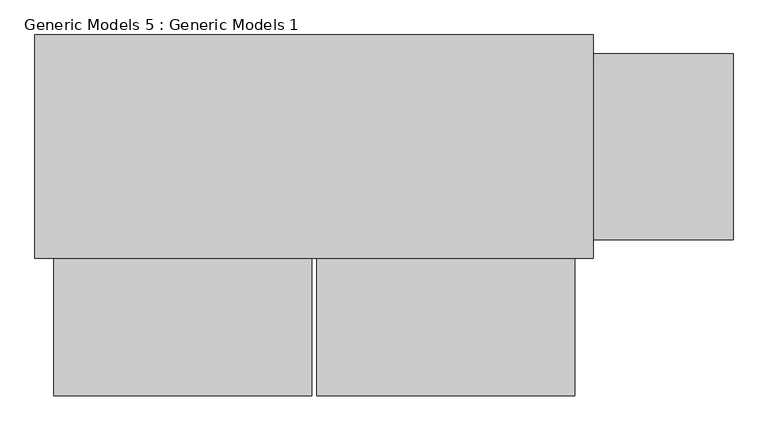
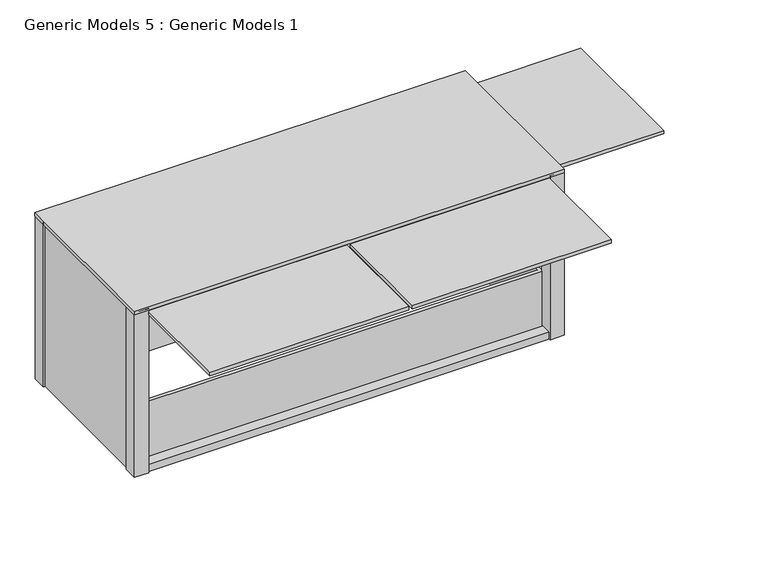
"""IFC4 building model written with IfcOpenShell, lengths in millimetres: proxy geometry, Generic Models 5 : Generic Models 1."""

from ifc_helpers import new_model, si_unit, frame, origin, place, context, project, spatial, polyline, outline, extrude, faceted_brep, source, transform, mapped, element, save


def generic_models_5_generic_models_1_d00e9448(model_context):
    return source(origin(), model_context, "Body", "SolidModel", [
        extrude(outline(polyline([(120332.4911269, 156436.3367469), (126428.4911269, 156436.3367469), (126428.4911269, 153997.9367469), (120332.4911269, 153997.9367469), (120332.4911269, 156436.3367469)])), frame((0.0, 0.0, 5968.9941705), z_axis=(0.0, 0.0, 1.0), x_axis=(1.0, 0.0, 0.0)), (0.0, 0.0, 1.0), 50.8),
        extrude(outline(polyline([(127952.4911269, 156230.5266749), (127952.4911269, 154198.5266749), (126403.0911269, 154198.5266749), (126403.0911269, 156230.5266749), (127952.4911269, 156230.5266749)])), frame((0.0, 0.0, 5892.7941705), z_axis=(0.0, 0.0, 1.0), x_axis=(1.0, 0.0, 0.0)), (0.0, 0.0, 1.0), 50.8),
        extrude(outline(polyline([(123405.8911269, 154020.7266749), (126225.2911269, 154020.7266749), (126225.2911269, 152496.7266749), (123405.8911269, 152496.7266749), (123405.8911269, 154020.7266749)])), frame((0.0, 0.0, 5892.7941705), z_axis=(0.0, 0.0, 1.0), x_axis=(1.0, 0.0, 0.0)), (0.0, 0.0, 1.0), 50.8),
        extrude(outline(polyline([(123355.0911269, 154020.7266749), (123355.0911269, 152496.7266749), (120535.6911269, 152496.7266749), (120535.6911269, 154020.7266749), (123355.0911269, 154020.7266749)])), frame((0.0, 0.0, 5892.7941705), z_axis=(0.0, 0.0, 1.0), x_axis=(1.0, 0.0, 0.0)), (0.0, 0.0, 1.0), 50.8),
        extrude(outline(polyline([(126233.4409488, 154198.5266749), (126233.4409488, 154192.1766749), (120510.2911269, 154192.1766749), (120510.2911269, 154242.9766749), (126182.6409488, 154242.9766749), (126182.6409488, 156230.5266749), (126233.4409488, 156230.5266749), (126233.4409488, 154198.5266749)])), frame((0.0, 0.0, 3530.5941705), z_axis=(0.0, 0.0, 1.0), x_axis=(1.0, 0.0, 0.0)), (0.0, 0.0, 1.0), 914.4),
        extrude(outline(polyline([(126225.2911269, 154020.7266749), (120535.6911269, 154020.7266749), (120535.6911269, 154173.1266749), (126225.2911269, 154173.1266749), (126225.2911269, 154020.7266749)])), frame((0.0, 0.0, 5867.3941705), z_axis=(0.0, 0.0, 1.0), x_axis=(1.0, 0.0, 0.0)), (0.0, 0.0, 1.0), 114.3),
        extrude(outline(polyline([(120357.8911269, 154198.5266749), (120357.8911269, 156230.5266749), (120510.2911269, 156230.5266749), (120510.2911269, 154198.5266749), (120357.8911269, 154198.5266749)])), frame((0.0, 0.0, 3530.5941705), z_axis=(0.0, 0.0, 1.0), x_axis=(1.0, 0.0, 0.0)), (0.0, 0.0, 1.0), 2451.1),
        extrude(outline(polyline([(126225.2911269, 156408.3266749), (126225.2911269, 156255.9266749), (120535.6911269, 156255.9266749), (120535.6911269, 156408.3266749), (126225.2911269, 156408.3266749)])), frame((0.0, 0.0, 3530.5941705), z_axis=(0.0, 0.0, 1.0), x_axis=(1.0, 0.0, 0.0)), (0.0, 0.0, 1.0), 2451.1),
        extrude(outline(polyline([(126250.6911269, 156230.5266749), (126403.0911269, 156230.5266749), (126403.0911269, 154198.5266749), (126250.6911269, 154198.5266749), (126250.6911269, 156230.5266749)])), frame((0.0, 0.0, 5867.3941705), z_axis=(0.0, 0.0, 1.0), x_axis=(1.0, 0.0, 0.0)), (0.0, 0.0, 1.0), 114.3),
        extrude(outline(polyline([(120535.6911269, 154020.7266749), (120535.6911269, 154173.1266749), (126225.2911269, 154173.1266749), (126225.2911269, 154020.7266749), (120535.6911269, 154020.7266749)])), frame((0.0, 0.0, 3530.5941705), z_axis=(0.0, 0.0, 1.0), x_axis=(1.0, 0.0, 0.0)), (0.0, 0.0, 1.0), 101.6),
        extrude(outline(polyline([(126403.0911269, 156230.5266749), (126403.0911269, 154198.5266749), (126250.6911269, 154198.5266749), (126250.6911269, 156230.5266749), (126403.0911269, 156230.5266749)])), frame((0.0, 0.0, 3530.5941705), z_axis=(0.0, 0.0, 1.0), x_axis=(1.0, 0.0, 0.0)), (0.0, 0.0, 1.0), 101.6),
        faceted_brep([(126225.2911269, 153997.9367469, 5994.3941705), (126428.4911269, 153997.9367469, 5994.3941705), (126428.4911269, 154198.5266749, 5994.3941705), (126225.2911269, 154198.5266749, 5994.3941705), (126225.2911269, 153997.9367469, 3530.5941705), (126225.2911269, 154198.5266749, 3530.5941705), (126428.4911269, 154198.5266749, 3530.5941705), (126428.4911269, 153997.9367469, 3530.5941705), (126225.2911269, 154198.5266749, 3632.1941705), (126225.2911269, 154198.5266749, 5867.3941705)], [[[0, 1, 2, 3]], [[4, 5, 6, 7]], [[1, 0, 4, 7]], [[2, 1, 7, 6]], [[3, 2, 6, 5, 8, 9]], [[0, 3, 9, 8, 5, 4]]]),
        faceted_brep([(120332.4911269, 153997.9367469, 5994.3941705), (120535.6911269, 153997.9367469, 5994.3941705), (120535.6911269, 154198.5266749, 5994.3941705), (120332.4911269, 154198.5266749, 5994.3941705), (120332.4911269, 153997.9367469, 3530.5941705), (120332.4911269, 154198.5266749, 3530.5941705), (120535.6911269, 154198.5266749, 3530.5941705), (120535.6911269, 153997.9367469, 3530.5941705)], [[[0, 1, 2, 3]], [[4, 5, 6, 7]], [[1, 0, 4, 7]], [[2, 1, 7, 6]], [[3, 2, 6, 5]], [[0, 3, 5, 4]]]),
        faceted_brep([(126225.2911269, 156230.5266749, 5994.3941705), (126428.4911269, 156230.5266749, 5994.3941705), (126428.4911269, 156433.7266749, 5994.3941705), (126225.2911269, 156433.7266749, 5994.3941705), (126225.2911269, 156230.5266749, 3530.5941705), (126225.2911269, 156433.7266749, 3530.5941705), (126428.4911269, 156433.7266749, 3530.5941705), (126428.4911269, 156230.5266749, 3530.5941705), (126225.2911269, 156230.5266749, 5867.3941705), (126225.2911269, 156230.5266749, 3632.1941705)], [[[0, 1, 2, 3]], [[4, 5, 6, 7]], [[1, 0, 8, 9, 4, 7]], [[2, 1, 7, 6]], [[3, 2, 6, 5]], [[0, 3, 5, 4, 9, 8]]]),
        faceted_brep([(120332.4911269, 156230.5266749, 5994.3941705), (120535.6911269, 156230.5266749, 5994.3941705), (120535.6911269, 156433.7266749, 5994.3941705), (120332.4911269, 156433.7266749, 5994.3941705), (120332.4911269, 156230.5266749, 3530.5941705), (120332.4911269, 156433.7266749, 3530.5941705), (120535.6911269, 156433.7266749, 3530.5941705), (120535.6911269, 156230.5266749, 3530.5941705)], [[[0, 1, 2, 3]], [[4, 5, 6, 7]], [[1, 0, 4, 7]], [[2, 1, 7, 6]], [[3, 2, 6, 5]], [[0, 3, 5, 4]]]),
    ])


if __name__ == "__main__":
    model = new_model("IFC4")
    model_context = context("Model", 3, world=origin())
    ifc_project = project(units=[si_unit("LENGTHUNIT", "METRE", prefix="MILLI")], contexts=[model_context])
    site = spatial("IfcSite", under=ifc_project)
    building = spatial("IfcBuilding", under=site)
    placement = place(None, origin())
    generic_models_5_generic_models_1_shape = generic_models_5_generic_models_1_d00e9448(model_context)
    element("IfcBuildingElementProxy", 1, Name="Generic Models 5 : Generic Models 1", ObjectType="Generic Models 5 : Generic Models 1", at=placement, inside=building, context=model_context, shape_type="MappedRepresentation", body=[
        mapped(generic_models_5_generic_models_1_shape, transform((0.0, 0.0, 0.0), x_axis=(1.0, 0.0, 0.0), y_axis=(0.0, 1.0, 0.0), z_axis=(0.0, 0.0, 1.0))),
    ])
    save(model, "model.ifc")
